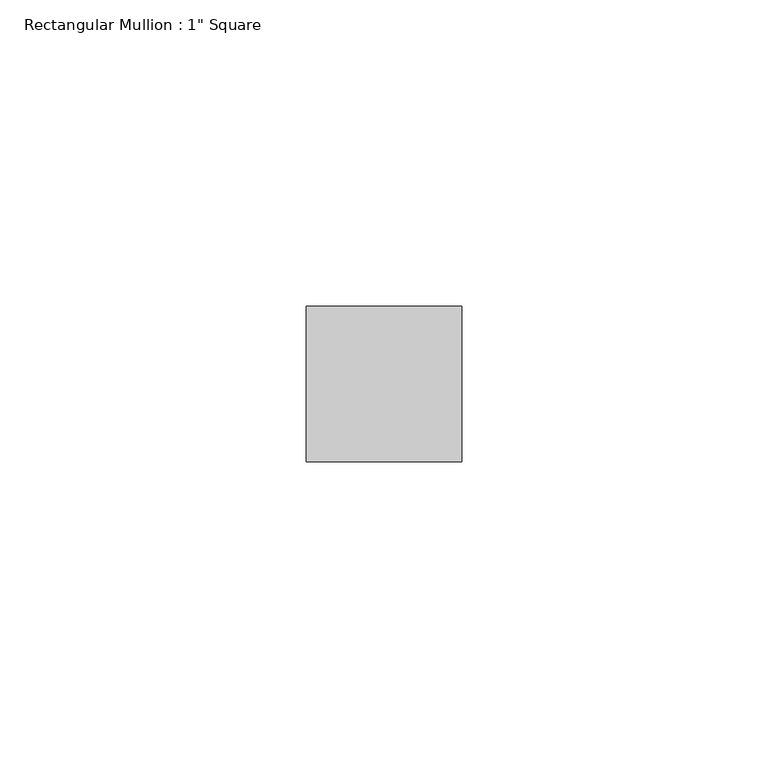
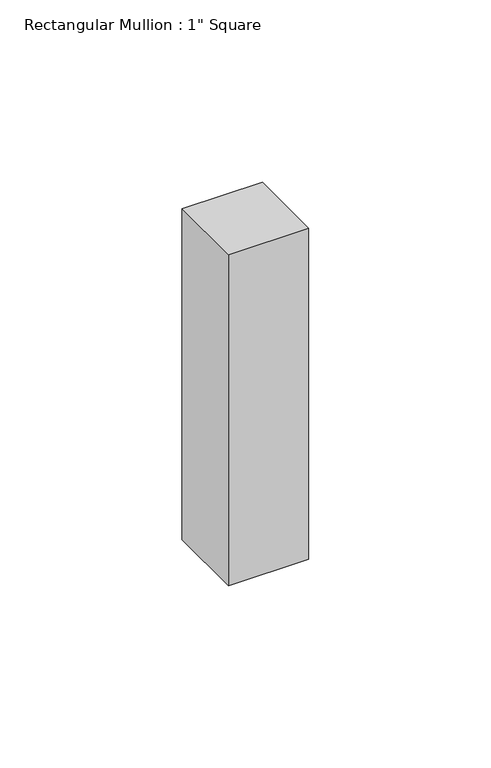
"""IFC4 building model written with IfcOpenShell, lengths in millimetres: member geometry."""

from ifc_helpers import new_model, si_unit, frame, origin, place, context, project, spatial, polyline, outline, extrude, source, transform, mapped, element, save


def member_20936006(model_context):
    return source(origin(), model_context, "Body", "SweptSolid", [
        extrude(outline(polyline([(12.7, 12.7), (12.7, -12.7), (-12.7, -12.7), (-12.7, 12.7), (12.7, 12.7)])), frame((0.0, 0.0, -110.6808206), z_axis=(0.0, 0.0, 1.0), x_axis=(1.0, 0.0, 0.0)), (0.0, 0.0, 1.0), 110.6808206),
    ])


if __name__ == "__main__":
    model = new_model("IFC4")
    model_context = context("Model", 3, world=origin())
    ifc_project = project(units=[si_unit("LENGTHUNIT", "METRE", prefix="MILLI")], contexts=[model_context])
    site = spatial("IfcSite", under=ifc_project)
    building = spatial("IfcBuilding", under=site)
    placement = place(None, origin())
    member_shape = member_20936006(model_context)
    element("IfcMember", 1, ObjectType="Rectangular Mullion : 1\" Square", at=placement, inside=building, context=model_context, shape_type="MappedRepresentation", body=[
        mapped(member_shape, transform((0.0, 0.0, 0.0), x_axis=(1.0, 0.0, 0.0), y_axis=(0.0, 1.0, 0.0), z_axis=(0.0, 0.0, 1.0))),
    ])
    save(model, "model.ifc")
